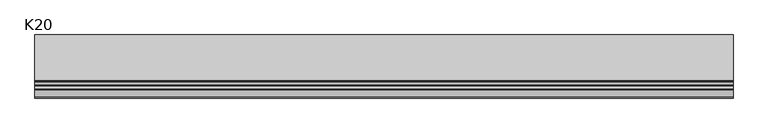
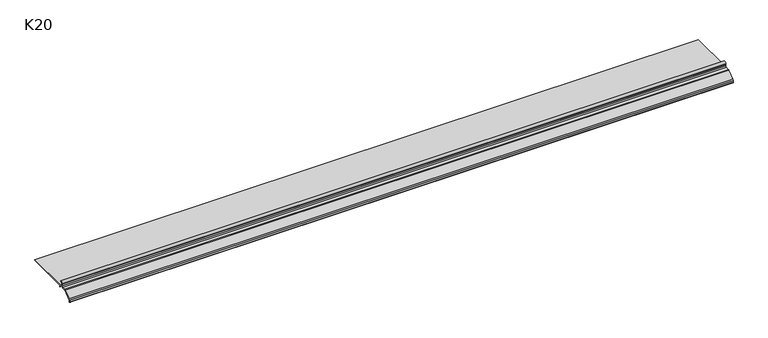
"""IFC4 building model written with IfcOpenShell, lengths in millimetres: proxy geometry, K20 Profil okapowy prosty : K20."""

from ifc_helpers import new_model, si_unit, frame, origin, place, context, project, spatial, polyline, circle_curve, source, transform, mapped, element, save
from ifc_brep_helpers import plane_surface, cylinder_surface, revolved_surface, advanced_brep


def k20_2974e2ec(model_context):
    return source(origin(), model_context, "Body", "AdvancedBrep", [
        advanced_brep(
        [(0.0, 87.4989572, -10.1021899), (0.0, 87.4989572, -11.7962628), (0.0, 3.8555414, -11.7962628), (0.0, 3.8184302, -14.8082521), (0.0, 2.818506, -14.7959319), (0.0, 2.8554668, -11.7961596), (0.0, -12.8739503, -12.0873026), (0.0, -13.7120428, -12.3877207), (0.0, -26.4454583, -21.9775098), (0.0, -27.2422707, -23.5751141), (0.0, -27.2422707, -27.009236), (0.0, -28.9426252, -27.0091483), (0.0, -28.9426252, -23.2256491), (0.0, -27.7470161, -20.8295524), (0.0, -14.6847117, -10.9920705), (0.0, -12.9833846, -10.3902613), (0.0, -6.0170507, -10.0981654), (0.0, -4.1008363, -8.0999212), (0.0, -4.1008363, -5.5101863), (0.0, -4.0266413, -4.0258099), (0.0, 0.0, 0.0), (0.0, -0.0197124, -1.5998786), (0.0, -2.4989019, -4.0499843), (0.0, -2.500569, -5.510882), (0.0, -2.500569, -10.1021899), (1287.4840491, 87.4989572, -10.1021899), (1287.4840491, -2.500569, -10.1021899), (1287.4840491, -2.500569, -5.510882), (1287.4840491, -2.4989019, -4.0499843), (1287.4840491, -0.0197124, -1.5998786), (1287.4840491, 0.0, 0.0), (1287.4840491, -4.0266413, -4.0258099), (1287.4840491, -4.1005689, -5.5101863), (1287.4840491, -4.1008363, -8.0999212), (1287.4840491, -6.0170507, -10.0981654), (1287.4840491, -12.9833846, -10.3902613), (1287.4840491, -14.6847117, -10.9920705), (1287.4840491, -27.7470161, -20.8295524), (1287.4840491, -28.9422346, -23.2256491), (1287.4840491, -28.9426252, -27.0091483), (1287.4840491, -27.2426253, -27.009236), (1287.4840491, -27.2422707, -23.5751141), (1287.4840491, -26.4454583, -21.9775098), (1287.4840491, -13.7120428, -12.3877207), (1287.4840491, -12.8739503, -12.0873026), (1287.4840491, 2.8554668, -11.7961596), (1287.4840491, 2.818506, -14.7959319), (1287.4840491, 3.8184302, -14.8082521), (1287.4840491, 3.8555414, -11.7962628), (1287.4840491, 87.4989572, -11.7962628)],
        [
            (0, 1),
            (1, 2),
            (2, 3),
            (3, 4),
            (4, 5),
            (5, 6),
            (6, 7, circle_curve(frame((0.0, -12.8482023, -13.4783781), z_axis=(1.0, 0.0, 0.0), x_axis=(0.0, -0.01850629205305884, 0.9998287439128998)), 1.3913138)),
            (7, 8),
            (8, 9, circle_curve(frame((0.0, -25.2422707, -23.5751141), z_axis=(1.0, 0.0, 0.0), x_axis=(0.0, -0.6015938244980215, 0.7988021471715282)), 2.0)),
            (9, 10),
            (10, 11, circle_curve(frame((0.0, -28.0926252, -27.0091483), z_axis=(-1.0, 0.0, 0.0), x_axis=(0.0, 0.9999999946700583, -0.0001032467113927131)), 0.85)),
            (11, 12),
            (12, 13, circle_curve(frame((0.0, -25.9422346, -23.2259588), z_axis=(-1.0, 0.0, 0.0), x_axis=(0.0, -0.9999999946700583, 0.00010324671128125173)), 3.0)),
            (13, 14),
            (14, 15, circle_curve(frame((0.0, -12.8799303, -13.388477), z_axis=(-1.0, 0.0, 0.0), x_axis=(0.0, -0.6015938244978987, 0.7988021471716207)), 3.0)),
            (15, 16),
            (16, 17, circle_curve(frame((0.0, -6.1008363, -8.0999212), z_axis=(1.0, 0.0, 0.0), x_axis=(0.0, 0.04189282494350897, -0.9991221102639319)), 2.0)),
            (17, 18),
            (18, 19, circle_curve(frame((0.0, 10.869654, -5.5117319), z_axis=(-1.0, 0.0, 0.0), x_axis=(0.0, -0.9999999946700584, 0.00010324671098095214)), 14.970223)),
            (19, 20, circle_curve(frame((0.0, 0.4451419, -4.4718752), z_axis=(-1.0, 0.0, 0.0), x_axis=(0.0, -0.9950616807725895, 0.09925850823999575)), 4.4939759)),
            (20, 21),
            (21, 22, circle_curve(frame((0.0, 0.0325847, -4.1321586), z_axis=(1.0, 0.0, 0.0), x_axis=(0.0, -0.020647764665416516, 0.9997868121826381)), 2.53282)),
            (22, 23, circle_curve(frame((0.0, 65.5675894, -4.8581062), z_axis=(1.0, 0.0, 0.0), x_axis=(0.0, -0.9999295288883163, 0.011871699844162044)), 68.0712884)),
            (23, 24),
            (24, 0),
            (25, 26),
            (26, 27),
            (27, 28, circle_curve(frame((1287.4840491, 65.5675894, -4.8581062), z_axis=(-1.0, 0.0, 0.0), x_axis=(0.0, -0.9999295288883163, 0.011871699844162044)), 68.0712884)),
            (28, 29, circle_curve(frame((1287.4840491, 0.0325847, -4.1321586), z_axis=(-1.0, 0.0, 0.0), x_axis=(0.0, -0.020647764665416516, 0.9997868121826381)), 2.53282)),
            (29, 30),
            (30, 31, circle_curve(frame((1287.4840491, 0.4451419, -4.4718752), z_axis=(1.0, 0.0, 0.0), x_axis=(0.0, -0.9950616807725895, 0.09925850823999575)), 4.4939759)),
            (31, 32, circle_curve(frame((1287.4840491, 10.869654, -5.5117319), z_axis=(1.0, 0.0, 0.0), x_axis=(0.0, -0.9999999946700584, 0.00010324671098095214)), 14.970223)),
            (32, 33),
            (33, 34, circle_curve(frame((1287.4840491, -6.1008363, -8.0999212), z_axis=(-1.0, 0.0, 0.0), x_axis=(0.0, 0.04189282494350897, -0.9991221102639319)), 2.0)),
            (34, 35),
            (35, 36, circle_curve(frame((1287.4840491, -12.8799303, -13.388477), z_axis=(1.0, 0.0, 0.0), x_axis=(0.0, -0.6015938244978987, 0.7988021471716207)), 3.0)),
            (36, 37),
            (37, 38, circle_curve(frame((1287.4840491, -25.9422346, -23.2259588), z_axis=(1.0, 0.0, 0.0), x_axis=(0.0, -0.9999999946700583, 0.00010324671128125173)), 3.0)),
            (38, 39),
            (39, 40, circle_curve(frame((1287.4840491, -28.0926252, -27.0091483), z_axis=(1.0, 0.0, 0.0), x_axis=(0.0, 0.9999999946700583, -0.0001032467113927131)), 0.85)),
            (40, 41),
            (41, 42, circle_curve(frame((1287.4840491, -25.2422707, -23.5751141), z_axis=(-1.0, 0.0, 0.0), x_axis=(0.0, -0.6015938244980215, 0.7988021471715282)), 2.0)),
            (42, 43),
            (43, 44, circle_curve(frame((1287.4840491, -12.8482023, -13.4783781), z_axis=(-1.0, 0.0, 0.0), x_axis=(0.0, -0.01850629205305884, 0.9998287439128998)), 1.3913138)),
            (44, 45),
            (45, 46),
            (46, 47),
            (47, 48),
            (48, 49),
            (49, 25),
            (17, 33),
            (32, 18),
            (31, 19),
            (30, 20),
            (29, 21),
            (28, 22),
            (27, 23),
            (26, 24),
            (16, 34),
            (0, 25),
            (49, 1),
            (48, 2),
            (47, 3),
            (46, 4),
            (45, 5),
            (44, 6),
            (43, 7),
            (42, 8),
            (41, 9),
            (40, 10),
            (39, 11),
            (38, 12),
            (37, 13),
            (36, 14),
            (35, 15),
        ],
        [
            plane_surface(frame((0.0, 0.0, 0.0), z_axis=(-1.0, 0.0, 0.0), x_axis=(0.0, 0.0, 1.0))),
            plane_surface(frame((1287.4840491, 0.0, 0.0), z_axis=(1.0, 0.0, 0.0), x_axis=(0.0, 0.0, 1.0))),
            plane_surface(frame((0.0, -4.1008363, -8.0999212), z_axis=(0.0, -1.0, 0.0), x_axis=(1.0, 0.0, 0.0))),
            cylinder_surface(frame((0.0, 10.869654, -5.5117319), z_axis=(-1.0000000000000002, 0.0, 0.0), x_axis=(0.0, -0.9999999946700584, 0.00010324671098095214)), 14.970223),
            cylinder_surface(frame((0.0, 0.4451419, -4.4718752), z_axis=(-1.0000000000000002, 0.0, 0.0), x_axis=(0.0, -0.9950616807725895, 0.09925850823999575)), 4.4939759),
            plane_surface(frame((0.0, 0.0, 0.0), z_axis=(0.0, 0.9999241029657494, -0.012320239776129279), x_axis=(1.0, 0.0, 0.0))),
            revolved_surface(polyline([(1287.4840491, -0.01971237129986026, -1.599878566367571), (0.0, -0.01971237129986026, -1.599878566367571)]), (0.0, 0.0325847, -4.1321586), (1.0, 0.0, 0.0)),
            revolved_surface(polyline([(1287.4840491, -2.498901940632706, -4.049984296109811), (0.0, -2.498901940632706, -4.049984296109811)]), (0.0, 65.5675894, -4.8581062), (1.0, 0.0, 0.0)),
            plane_surface(frame((0.0, -2.500569, -5.510882), z_axis=(0.0, 1.0, 0.0), x_axis=(1.0, 0.0, 0.0))),
            revolved_surface(polyline([(1287.4840491, -6.017050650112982, -10.098165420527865), (0.0, -6.017050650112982, -10.098165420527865)]), (0.0, -6.1008363, -8.0999212), (1.0, 0.0, 0.0)),
            plane_surface(frame((0.0, 87.4989572, -10.1021899), z_axis=(0.0, 1.0, 0.0), x_axis=(1.0, 0.0, 0.0))),
            plane_surface(frame((0.0, 87.4989572, -11.7962628), z_axis=(0.0, 0.0, -1.0), x_axis=(1.0, 0.0, 0.0))),
            plane_surface(frame((0.0, 3.8555414, -11.7962628), z_axis=(0.0, 0.9999241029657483, -0.012320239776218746), x_axis=(1.0, 0.0, 0.0))),
            plane_surface(frame((0.0, 3.8184302, -14.8082521), z_axis=(0.0, -0.01232023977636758, -0.9999241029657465), x_axis=(1.0, 0.0, 0.0))),
            plane_surface(frame((0.0, 2.818506, -14.7959319), z_axis=(0.0, -0.9999241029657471, 0.012320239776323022), x_axis=(1.0, 0.0, 0.0))),
            plane_surface(frame((0.0, 2.8554668, -11.7961596), z_axis=(0.0, 0.01850629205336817, -0.999828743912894), x_axis=(1.0, 0.0, 0.0))),
            revolved_surface(polyline([(1287.4840491, -12.873950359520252, -12.087302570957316), (0.0, -12.873950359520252, -12.087302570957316)]), (0.0, -12.8482023, -13.4783781), (1.0, 0.0, 0.0)),
            plane_surface(frame((0.0, -13.7120428, -12.3877207), z_axis=(0.0, 0.6015938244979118, -0.7988021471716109), x_axis=(1.0, 0.0, 0.0))),
            revolved_surface(polyline([(1287.4840491, -26.44545834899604, -21.977509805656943), (0.0, -26.44545834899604, -21.977509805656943)]), (0.0, -25.2422707, -23.5751141), (1.0, 0.0, 0.0)),
            plane_surface(frame((0.0, -27.2422707, -23.5751141), z_axis=(0.0, 1.0, 0.0), x_axis=(1.0, 0.0, 0.0))),
            cylinder_surface(frame((0.0, -28.0926252, -27.0091483), z_axis=(-1.0, 0.0, 0.0), x_axis=(0.0, 0.9999999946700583, -0.0001032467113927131)), 0.85),
            plane_surface(frame((0.0, -28.9426252, -27.0091483), z_axis=(0.0, -1.0, 0.0), x_axis=(1.0, 0.0, 0.0))),
            cylinder_surface(frame((0.0, -25.9422346, -23.2259588), z_axis=(-1.0, 0.0, 0.0), x_axis=(0.0, -0.9999999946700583, 0.00010324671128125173)), 3.0),
            plane_surface(frame((0.0, -27.7470161, -20.8295524), z_axis=(0.0, -0.6015938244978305, 0.798802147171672), x_axis=(1.0, 0.0, 0.0))),
            cylinder_surface(frame((0.0, -12.8799303, -13.388477), z_axis=(-1.0, 0.0, 0.0), x_axis=(0.0, -0.6015938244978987, 0.7988021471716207)), 3.0),
            plane_surface(frame((0.0, -12.9833846, -10.3902613), z_axis=(0.0, -0.04189282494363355, 0.9991221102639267), x_axis=(1.0, 0.0, 0.0))),
            plane_surface(frame((0.0, -2.500569, -10.1021899), z_axis=(0.0, 0.0, 1.0), x_axis=(1.0, 0.0, 0.0))),
        ],
        [
            (0, [[1, 2, 3, 4, 5, 6, 7, 8, 9, 10, 11, 12, 13, 14, 15, 16, 17, 18, 19, 20, 21, 22, 23, 24, 25]]),
            (1, [[26, 27, 28, 29, 30, 31, 32, 33, 34, 35, 36, 37, 38, 39, 40, 41, 42, 43, 44, 45, 46, 47, 48, 49, 50]]),
            (2, [[-18, 51, -33, 52]]),
            (3, [[-19, -52, -32, 53]]),
            (4, [[-20, -53, -31, 54]]),
            (5, [[-21, -54, -30, 55]]),
            (6, [[-22, -55, -29, 56]]),
            (7, [[-23, -56, -28, 57]]),
            (8, [[-24, -57, -27, 58]]),
            (9, [[-17, 59, -34, -51]]),
            (10, [[-1, 60, -50, 61]]),
            (11, [[-2, -61, -49, 62]]),
            (12, [[-3, -62, -48, 63]]),
            (13, [[-4, -63, -47, 64]]),
            (14, [[-5, -64, -46, 65]]),
            (15, [[-6, -65, -45, 66]]),
            (16, [[-7, -66, -44, 67]]),
            (17, [[-8, -67, -43, 68]]),
            (18, [[-9, -68, -42, 69]]),
            (19, [[-10, -69, -41, 70]]),
            (20, [[-11, -70, -40, 71]]),
            (21, [[-12, -71, -39, 72]]),
            (22, [[-13, -72, -38, 73]]),
            (23, [[-14, -73, -37, 74]]),
            (24, [[-15, -74, -36, 75]]),
            (25, [[-16, -75, -35, -59]]),
            (26, [[-25, -58, -26, -60]]),
        ],
    ),
    ])


if __name__ == "__main__":
    model = new_model("IFC4")
    model_context = context("Model", 3, world=origin())
    ifc_project = project(units=[si_unit("LENGTHUNIT", "METRE", prefix="MILLI")], contexts=[model_context])
    site = spatial("IfcSite", under=ifc_project)
    building = spatial("IfcBuilding", under=site)
    placement = place(None, origin())
    k20_shape = k20_2974e2ec(model_context)
    element("IfcBuildingElementProxy", 1, Name="K20 Profil okapowy prosty : K20", ObjectType="K20 Profil okapowy prosty : K20", at=placement, inside=building, context=model_context, shape_type="MappedRepresentation", body=[
        mapped(k20_shape, transform((0.0, 0.0, 0.0), x_axis=(1.0, 0.0, 0.0), y_axis=(0.0, 1.0, 0.0), z_axis=(0.0, 0.0, 1.0))),
    ])
    save(model, "model.ifc")
